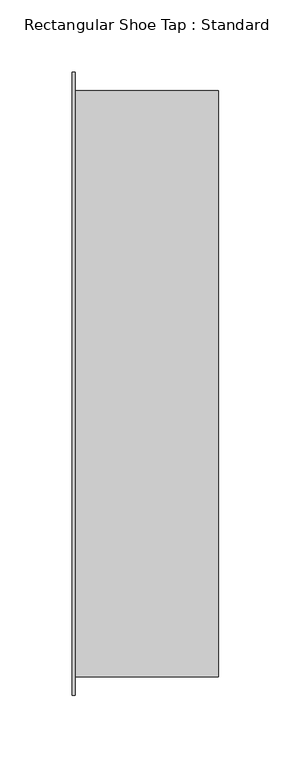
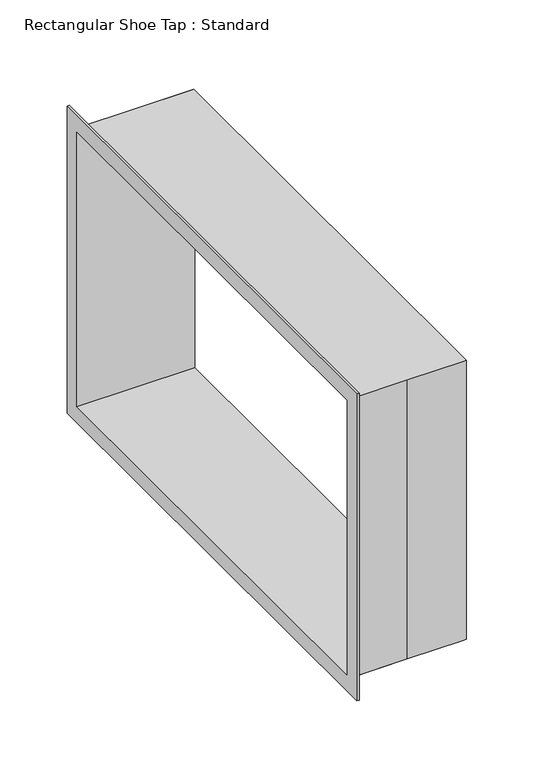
"""IFC4 building model written with IfcOpenShell, lengths in millimetres: duct fitting geometry, Rectangular Shoe Tap : Standard."""

import ifcopenshell
import ifcopenshell.guid

model = None  # the IFC model being written
_history = None  # IfcOwnerHistory: only IFC2X3 demands one
_inside = {}  # id of a spatial element -> (the spatial element, [elements in it])
_under = {}  # id of a project, library or spatial element -> (it, [spatial elements below it])
_declared = {}  # id of a project -> (the project, [libraries it declares])
_typed = {}  # id of a type object -> (the type object, [elements of that type])
_made_of = {}  # id of a material, layer set ... -> (it, [elements and type objects made of it])


def new_model(schema):
    """Start an empty IFC model of exactly this schema.

    Asked for "IFC4X3", IfcOpenShell would pick the latest addendum, in which some entities
    have other attributes; the version numbers below select the first issue.
    IFC2X3 requires an IfcOwnerHistory on every rooted entity: one is made here for all.
    """
    global model, _history
    if schema == "IFC4X3":
        model = ifcopenshell.file(schema_version=(4, 3, 0, 0))
    else:
        model = ifcopenshell.file(schema=schema)
    _inside.clear()
    _under.clear()
    _declared.clear()
    _typed.clear()
    _made_of.clear()
    _history = None
    if model.schema == "IFC2X3":
        org = make("IfcOrganization", Name="unknown")
        user = make(
            "IfcPersonAndOrganization",
            ThePerson=make("IfcPerson", FamilyName="unknown"),
            TheOrganization=org,
        )
        app = make(
            "IfcApplication",
            ApplicationDeveloper=org,
            Version="unknown",
            ApplicationFullName="unknown",
            ApplicationIdentifier="unknown",
        )
        _history = make(
            "IfcOwnerHistory",
            OwningUser=user,
            OwningApplication=app,
            ChangeAction="ADDED",
            CreationDate=0,
        )
    return model


def make(cls, **values):
    """One entity of the class cls with the attributes given. An attribute that is None is left unset."""
    return model.create_entity(
        cls, **{name: value for name, value in values.items() if value is not None}
    )


def rooted(cls, **values):
    """An entity with a GlobalId (a new one), such as an element, a storey or a relation."""
    return make(cls, GlobalId=ifcopenshell.guid.new(), OwnerHistory=_history, **values)


def si_unit(unit_type, name, prefix=None):
    """IfcSIUnit, for example si_unit("LENGTHUNIT", "METRE", prefix="MILLI")."""
    return make("IfcSIUnit", UnitType=unit_type, Prefix=prefix, Name=name)


def assignment(units):
    """IfcUnitAssignment: the units of a project."""
    return None if units is None else make("IfcUnitAssignment", Units=units)


def point(xyz):
    """IfcCartesianPoint."""
    return None if xyz is None else make("IfcCartesianPoint", Coordinates=xyz)


def direction(xyz):
    """IfcDirection."""
    return None if xyz is None else make("IfcDirection", DirectionRatios=xyz)


def frame(location, z_axis=None, x_axis=None):
    """IfcAxis2Placement3D, a coordinate frame: its origin and axes. An axis left out is left unset."""
    return make(
        "IfcAxis2Placement3D",
        Location=point(location),
        Axis=direction(z_axis),
        RefDirection=direction(x_axis),
    )


def origin():
    """The frame at (0, 0, 0) with its axes left unset."""
    return frame((0.0, 0.0, 0.0))


def place(relative_to, where):
    """IfcLocalPlacement: puts the frame where relative to a parent placement (None: the world)."""
    return make(
        "IfcLocalPlacement", PlacementRelTo=relative_to, RelativePlacement=where
    )


def context(
    kind, dimensions, precision=None, world=None, true_north=None, identifier=None
):
    """IfcGeometricRepresentationContext, for example the 3D "Model" context."""
    return make(
        "IfcGeometricRepresentationContext",
        ContextIdentifier=identifier,
        ContextType=kind,
        CoordinateSpaceDimension=dimensions,
        Precision=precision,
        WorldCoordinateSystem=world,
        TrueNorth=true_north,
    )


def project(units=None, contexts=None):
    """IfcProject with its units and contexts."""
    return rooted(
        "IfcProject",
        Name="project",
        RepresentationContexts=contexts,
        UnitsInContext=assignment(units),
    )


def spatial(cls, under=None, at=None, **own):
    """A site, building, storey or space (cls), placed at a placement, below another one or the project."""
    s = rooted(cls, ObjectPlacement=at, **own)
    if under is not None:
        _under.setdefault(under.id(), (under, []))[1].append(s)
    return s


def faces_of(points, faces, orient=None, outer=None):
    """IfcFace entities. A face is a list of loops; a loop is a list of indices into points, from 0.

    orient and outer hold one flag for each loop. By default every Orientation is true, the
    first loop of a face is its IfcFaceOuterBound and the others are IfcFaceBound.
    """
    made = []
    for i, loops in enumerate(faces):
        bounds = []
        for j, loop in enumerate(loops):
            is_outer = j == 0 if outer is None else outer[i][j]
            bounds.append(
                make(
                    "IfcFaceOuterBound" if is_outer else "IfcFaceBound",
                    Bound=make("IfcPolyLoop", Polygon=[points[k] for k in loop]),
                    Orientation=True if orient is None else orient[i][j],
                )
            )
        made.append(make("IfcFace", Bounds=bounds))
    return made


def faceted_brep(points, faces, orient=None, outer=None, voids=None):
    """IfcFacetedBrep: a solid bounded by flat faces; with voids (closed shells), ...WithVoids."""
    shared = [point(p) for p in points]
    hull = make("IfcClosedShell", CfsFaces=faces_of(shared, faces, orient, outer))
    if voids is None:
        return make("IfcFacetedBrep", Outer=hull)
    return make(
        "IfcFacetedBrepWithVoids",
        Outer=hull,
        Voids=[
            make(cls, CfsFaces=faces_of(shared, fs, o, b)) for cls, fs, o, b in voids
        ],
    )


def shape(context_of_items, identifier, shape_type, items):
    """IfcShapeRepresentation: the items that make up one representation, for example the "Body"."""
    return make(
        "IfcShapeRepresentation",
        ContextOfItems=context_of_items,
        RepresentationIdentifier=identifier,
        RepresentationType=shape_type,
        Items=items,
    )


def source(mapping_origin, context_of_items, identifier, shape_type, items):
    """IfcRepresentationMap: a shape defined once, which mapped items show again and again."""
    return make(
        "IfcRepresentationMap",
        MappingOrigin=mapping_origin,
        MappedRepresentation=shape(context_of_items, identifier, shape_type, items),
    )


def transform(
    local_origin,
    x_axis=None,
    y_axis=None,
    z_axis=None,
    scale=None,
    scale2=None,
    scale3=None,
    uniform=True,
):
    """IfcCartesianTransformationOperator3D, or its non-uniform kind. x_axis, y_axis, z_axis: its Axis1, 2, 3."""
    if uniform:
        return make(
            "IfcCartesianTransformationOperator3D",
            Axis1=direction(x_axis),
            Axis2=direction(y_axis),
            LocalOrigin=point(local_origin),
            Scale=scale,
            Axis3=direction(z_axis),
        )
    return make(
        "IfcCartesianTransformationOperator3DnonUniform",
        Axis1=direction(x_axis),
        Axis2=direction(y_axis),
        LocalOrigin=point(local_origin),
        Scale=scale,
        Axis3=direction(z_axis),
        Scale2=scale2,
        Scale3=scale3,
    )


def mapped(mapping_source, mapping_target):
    """IfcMappedItem: shows the shape of a source again, moved by a transform."""
    return make(
        "IfcMappedItem", MappingSource=mapping_source, MappingTarget=mapping_target
    )


def made_of(thing, what):
    """Note that an element or type object is made of a material, layer set ...; save() writes the relation."""
    if what is not None:
        _made_of.setdefault(what.id(), (what, []))[1].append(thing)
    return thing


def element(
    cls,
    number,
    at=None,
    inside=None,
    cuts=None,
    type_object=None,
    material=None,
    context=None,
    identifier="Body",
    shape_type=None,
    held_by="IfcProductDefinitionShape",
    body=None,
    shapes=None,
    **own,
):
    """One element of the class cls, such as IfcWall. Its Tag is "e" and its number.

    at: its placement. inside: the storey or other place that contains it. cuts: it is an
    opening in that element (IfcRelVoidsElement). A single representation is given by context,
    identifier, shape_type and body (its items); several are given by shapes. held_by: the class
    of the entity that holds the representations. save() writes the other relations.
    """
    e = rooted(cls, Tag="e%d" % number, ObjectPlacement=at, **own)
    if body is not None:
        shapes = [shape(context, identifier, shape_type, body)]
    if shapes is not None:
        e.Representation = make(held_by, Representations=shapes)
    if inside is not None:
        _inside.setdefault(inside.id(), (inside, []))[1].append(e)
    if cuts is not None:
        rooted(
            "IfcRelVoidsElement", RelatingBuildingElement=cuts, RelatedOpeningElement=e
        )
    if type_object is not None:
        _typed.setdefault(type_object.id(), (type_object, []))[1].append(e)
    return made_of(e, material)


def aggregate(whole, parts):
    """IfcRelAggregates: a whole, such as a stair, and the parts it consists of."""
    return rooted("IfcRelAggregates", RelatingObject=whole, RelatedObjects=parts)


def save(model, path):
    """Write the relations noted so far, then the file.

    IfcRelAggregates (storeys below a building ...), IfcRelContainedInSpatialStructure (elements
    in a storey), IfcRelDefinesByType, IfcRelAssociatesMaterial and IfcRelDeclares: one each for
    every whole, place, type object, material and project.
    """
    for whole, parts in _under.values():
        aggregate(whole, parts)
    for where, things in _inside.values():
        rooted(
            "IfcRelContainedInSpatialStructure",
            RelatedElements=things,
            RelatingStructure=where,
        )
    for kind, things in _typed.values():
        rooted("IfcRelDefinesByType", RelatedObjects=things, RelatingType=kind)
    for what, things in _made_of.values():
        rooted("IfcRelAssociatesMaterial", RelatedObjects=things, RelatingMaterial=what)
    for by, libraries in _declared.values():
        rooted("IfcRelDeclares", RelatingContext=by, RelatedDefinitions=libraries)
    model.write(path)


def rectangular_shoe_tap_standard_00681e93(model_context):
    return source(origin(), model_context, "Body", "Brep", [
        faceted_brep([(101.6, -203.2, 127.0), (101.6, 203.2, 127.0), (99.6, 203.2, 127.0), (2.0, 203.2, 127.0), (2.0, -203.2, 127.0), (50.8, -203.2, 127.0), (99.6, -203.2, 127.0), (101.6, 203.2, -127.0), (101.6, -203.2, -127.0), (99.6, -203.2, -127.0), (50.8, -203.2, -127.0), (2.0, -203.2, -127.0), (2.0, 203.2, -127.0), (99.6, 203.2, -127.0), (101.6, -201.2, 125.0), (101.6, 201.2, 125.0), (101.6, 201.2, -125.0), (101.6, -201.2, -125.0), (2.0, -215.9, 139.7), (2.0, -215.9, -139.7), (2.0, 215.9, -139.7), (2.0, 215.9, 139.7), (0.0, -215.9, 139.7), (0.0, 215.9, 139.7), (0.0, 215.9, -139.7), (0.0, -215.9, -139.7), (0.0, 201.2, 125.0), (0.0, -201.2, 125.0), (0.0, -201.2, -125.0), (0.0, 201.2, -125.0), (48.8, -201.2, 125.0), (48.8, -201.2, -125.0)], [[[0, 1, 2, 3, 4, 5, 6]], [[7, 8, 9, 10, 11, 12, 13]], [[5, 10, 9, 8, 0, 6]], [[1, 0, 8, 7], [14, 15, 16, 17]], [[1, 7, 13, 12, 3, 2]], [[18, 19, 20, 21], [4, 3, 12, 11]], [[22, 23, 24, 25], [26, 27, 28, 29]], [[19, 18, 22, 25]], [[20, 19, 25, 24]], [[21, 20, 24, 23]], [[18, 21, 23, 22]], [[14, 30, 27, 26, 15]], [[31, 17, 16, 29, 28]], [[30, 14, 17, 31]], [[16, 15, 26, 29]], [[10, 5, 4, 11]], [[30, 31, 28, 27]]]),
        faceted_brep([(101.6, -201.2, 125.0), (48.8, -201.2, 125.0), (0.0, -201.2, 125.0), (0.0, 201.2, 125.0), (101.6, 201.2, 125.0), (48.8, -201.2, -125.0), (101.6, -201.2, -125.0), (101.6, 201.2, -125.0), (0.0, 201.2, -125.0), (0.0, -201.2, -125.0), (0.0, 203.2, 127.0), (0.0, -203.2, 127.0), (50.8, -203.2, 127.0), (101.6, -203.2, 127.0), (101.6, 203.2, 127.0), (50.0, 203.2, 127.0), (0.0, -203.2, -127.0), (0.0, 203.2, -127.0), (50.0, 203.2, -127.0), (101.6, 203.2, -127.0), (101.6, -203.2, -127.0), (50.8, -203.2, -127.0)], [[[0, 1, 2, 3, 4]], [[5, 6, 7, 8, 9]], [[1, 0, 6, 5]], [[4, 3, 8, 7]], [[10, 11, 12, 13, 14, 15]], [[16, 17, 18, 19, 20, 21]], [[10, 17, 16, 11], [2, 9, 8, 3]], [[19, 14, 13, 20], [0, 4, 7, 6]], [[15, 14, 19, 18]], [[10, 15, 18, 17]], [[1, 5, 9, 2]], [[13, 12, 21, 20]], [[12, 11, 16, 21]]]),
    ])


if __name__ == "__main__":
    model = new_model("IFC4")
    model_context = context("Model", 3, world=origin())
    ifc_project = project(units=[si_unit("LENGTHUNIT", "METRE", prefix="MILLI")], contexts=[model_context])
    site = spatial("IfcSite", under=ifc_project)
    building = spatial("IfcBuilding", under=site)
    placement = place(None, origin())
    rectangular_shoe_tap_standard_shape = rectangular_shoe_tap_standard_00681e93(model_context)
    element("IfcDuctFitting", 1, ObjectType="Rectangular Shoe Tap : Standard", at=placement, inside=building, context=model_context, shape_type="MappedRepresentation", body=[
        mapped(rectangular_shoe_tap_standard_shape, transform((0.0, 0.0, 0.0), x_axis=(1.0, 0.0, 0.0), y_axis=(0.0, 1.0, 0.0), z_axis=(0.0, 0.0, 1.0))),
    ])
    save(model, "model.ifc")
